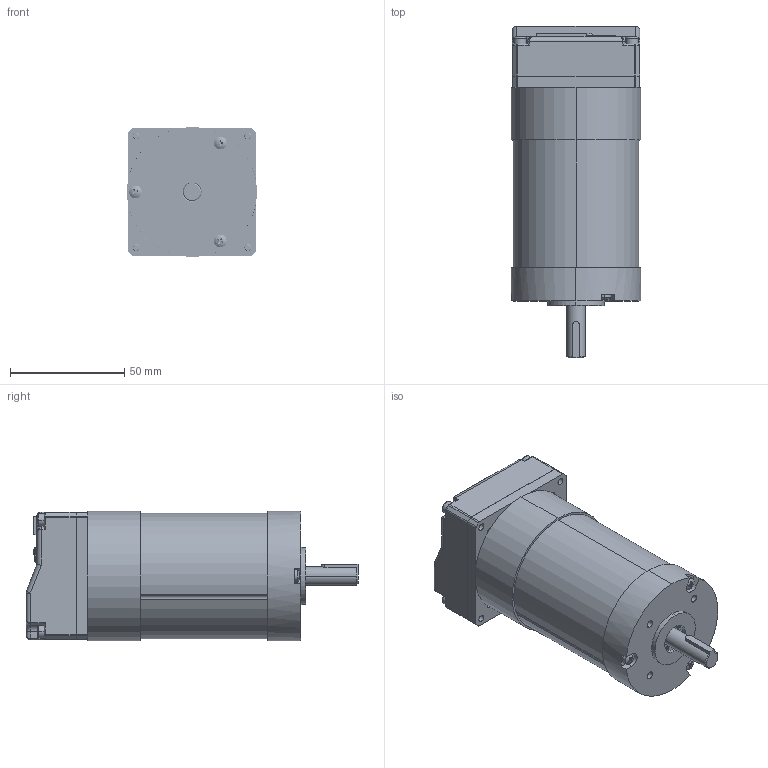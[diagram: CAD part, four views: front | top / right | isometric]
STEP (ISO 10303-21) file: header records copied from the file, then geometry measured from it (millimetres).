
FILE_DESCRIPTION((''),'2;1');
FILE_NAME('DM4D1_NEMA23_ASM','2021-01-27T11:00:02',('Matteo Maccalli'),(''),'CREO PARAMETRIC BY PTC INC, 2019344','CREO PARAMETRIC BY PTC INC, 2019344','');
FILE_SCHEMA(('AUTOMOTIVE_DESIGN { 1 0 10303 214 1 1 1 1 }'));
Length unit declared in the file: millimetre
Products named in the file (87): CONTROFLANGIA_DM4D1; MC-01040; OPEN_CASCADE_STEP_TRANSLATOR_6_; BOARD_ASM; 878325122; CN6_ASM; USER_LIBRARY-LQFP64_GRID_0-6030; USER_LIBRARY-LQFP64_GRID_0-6795; LQFP64_GRID_0_5_ASM; IC403_ASM; _FTS-105-01-F-DV-P-TR_BODY; _FTS-105-01-F-DV-P-TR_PINS1; _FTS-105-01-F-DV-P-TR_PINS2; FTS-105-01-F-DV-P-TR_1_ASM_ASM; FTS-105-01-F-DV-P-TR_ASM; J402_ASM; LED_0805_1; LED400_ASM; LED_0805; LED401_ASM; PG-DSO-8-7_1; PG-DSO-8-7_2; PG-DSO-8-7_3; PG-DSO-8-7_4; PG-DSO-8-7_5; PG-DSO-8-7_6; PG-DSO-8-7_7; PG-DSO-8-7_8; PG-DSO-8-7_9; PG-DSO-8-7_10; PG-DSO-8-7_11; PG-DSO-8-7_12; PG-DSO-8-7_13; PG-DSO-8-7_14; PG-DSO-8-7_15; PG-DSO-8-7_16; PG-DSO-8-7_17; PG-DSO-8-7_18; PG-DSO-8-7_19; PG-DSO-8-7_20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
Assembly tree (157 placements, depth 8):
  DM4D1_NEMA23_ASM
    CONTROFLANGIA_DM4D1
    MC-01040
    ASM0003_ASM
      PCB_ASM
        BOARD_ASM
          OPEN_CASCADE_STEP_TRANSLATOR_6_
        CN6_ASM
          878325122
        IC403_ASM
          LQFP64_GRID_0_5_ASM
            USER_LIBRARY-LQFP64_GRID_0-6030
            USER_LIBRARY-LQFP64_GRID_0-6795  x64
        J402_ASM
          FTS-105-01-F-DV-P-TR_ASM
            FTS-105-01-F-DV-P-TR_1_ASM_ASM
              _FTS-105-01-F-DV-P-TR_BODY
              _FTS-105-01-F-DV-P-TR_PINS1
              _FTS-105-01-F-DV-P-TR_PINS2
        LED400_ASM
          LED_0805_1
        LED401_ASM
          LED_0805
        U700_ASM
          PG-DSO-8-7_ASM
            PG-DSO-8-7_1
            PG-DSO-8-7_2
            PG-DSO-8-7_3
            PG-DSO-8-7_4
            PG-DSO-8-7_5
            PG-DSO-8-7_6
            PG-DSO-8-7_7
            PG-DSO-8-7_8
            PG-DSO-8-7_9
            PG-DSO-8-7_10
            PG-DSO-8-7_11
            PG-DSO-8-7_12
            PG-DSO-8-7_13
            PG-DSO-8-7_14
            PG-DSO-8-7_15
            PG-DSO-8-7_16
            PG-DSO-8-7_17
            PG-DSO-8-7_18
            PG-DSO-8-7_19
            PG-DSO-8-7_20
            PG-DSO-8-7_21
            PG-DSO-8-7_22
            PG-DSO-8-7_23
            PG-DSO-8-7_24
        W600_ASM
          6859060736_ASM
            EXTRUDED
        CE200_ASM
          SCE-D8_ASM
            SCE-D8_1
            SCE-D8_2
            SCE-D8_3
            SCE-D8_4
            SCE-D8_5
        CN1_ASM
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Bounding box: 57 x 145.6 x 57 mm (x, y, z)
Volume: 174081.7 mm3; surface area: 139634.3 mm2
Topology: 130 solids, 132 shells, 8104 faces, 20399 edges, 12275 vertices
Faces by surface type: plane 4087, cylinder 2696, torus 644, sphere 594, cone 57, bspline 23, extrusion 3
Entity records: 181084 total; most frequent: CARTESIAN_POINT 29648, DIRECTION 25684, ORIENTED_EDGE 25558, EDGE_CURVE 12779, VECTOR 9508, LINE 9505, VERTEX_POINT 8378, AXIS2_PLACEMENT_3D 8088
